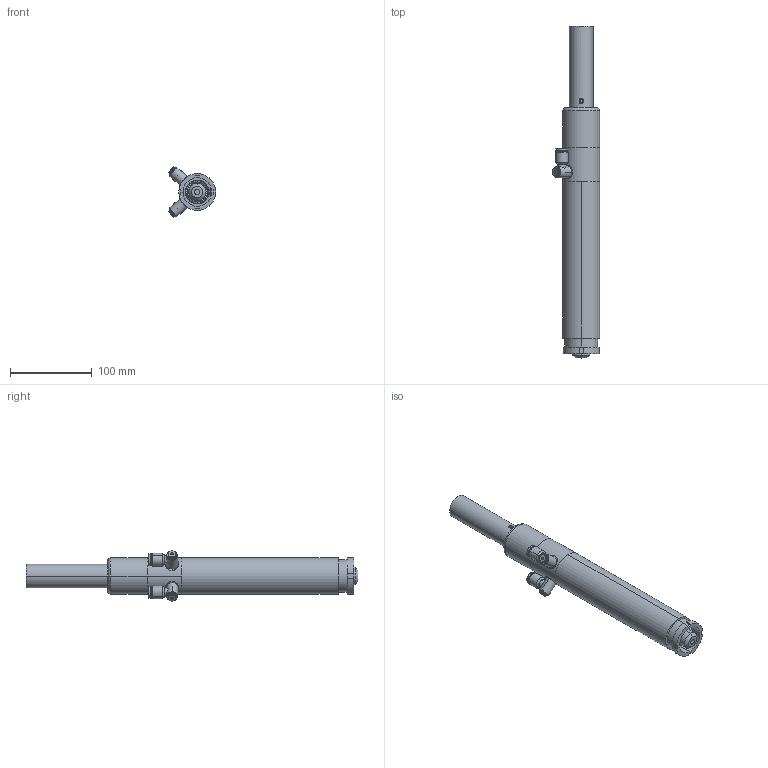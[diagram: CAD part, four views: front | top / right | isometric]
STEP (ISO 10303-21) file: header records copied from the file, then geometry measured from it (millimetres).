
FILE_DESCRIPTION (( 'STEP AP203' ), '1' );
FILE_NAME ('BES2122-220.STEP', '2009-09-04T09:27:52', ( 'HP' ), ( '' ), 'SwSTEP 2.0', 'SolidWorks 2008', '' );
FILE_SCHEMA (( 'CONFIG_CONTROL_DESIGN' ));
Length unit declared in the file: millimetre
Products named in the file (15): 400509; 400506; 300413; Distans; 041J004003 keychuck 0,5-6,5mm; 057E150818; BES2122-220; 300414; 300415; 400637; 400636; 400507; 400511; 042K000017; 400510
Assembly tree (15 placements, depth 2):
  BES2122-220
    300414
    041J004003 keychuck 0,5-6,5mm
    Distans
    057E150818  x2
    400511
    400506
    300415
    300413
    400507
    400510
    400637
    400636
    400509
    042K000017
Bounding box: 57.9 x 406.9 x 61.63 mm (x, y, z)
Volume: 333056.3 mm3; surface area: 171065.7 mm2
Topology: 18 solids, 18 shells, 655 faces, 1524 edges, 950 vertices
Faces by surface type: cylinder 258, plane 247, cone 94, bspline 32, torus 24
Entity records: 21071 total; most frequent: CARTESIAN_POINT 5854, DIRECTION 2923, ORIENTED_EDGE 2748, EDGE_CURVE 1374, AXIS2_PLACEMENT_3D 1144, VERTEX_POINT 868, EDGE_LOOP 704, VECTOR 635
